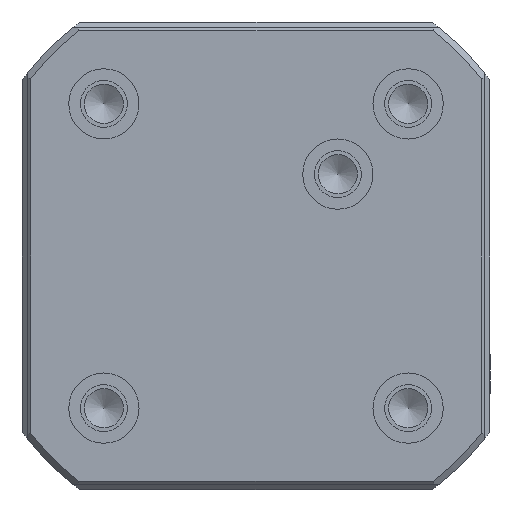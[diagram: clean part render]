
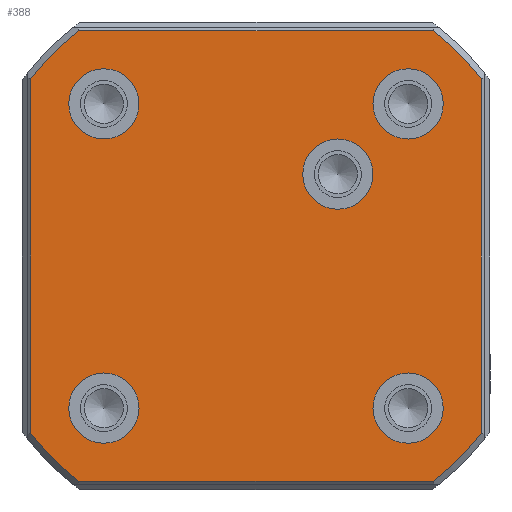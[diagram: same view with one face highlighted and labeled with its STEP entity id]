
A CAD part, front view. The second image highlights one B-rep face of the part: STEP entity #388.
In plain terms, the highlighted planar face has unit normal (0, -1, 0) as drawn and (0, 0, -1) by its records, which use the part's own axes.
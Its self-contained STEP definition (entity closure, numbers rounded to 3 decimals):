
#388=ADVANCED_FACE('',(#857,#858,#859,#860,#861,#862),#585,.T.);
#585=PLANE('',#2779);
#683=LINE('',#4112,#763);
#684=LINE('',#4116,#764);
#685=LINE('',#4120,#765);
#686=LINE('',#4124,#766);
#763=VECTOR('',#3226,1.);
#764=VECTOR('',#3229,1.);
#765=VECTOR('',#3232,1.);
#766=VECTOR('',#3235,1.);
#857=FACE_BOUND('',#1119,.T.);
#858=FACE_BOUND('',#1120,.T.);
#859=FACE_BOUND('',#1121,.T.);
#860=FACE_BOUND('',#1122,.T.);
#861=FACE_BOUND('',#1123,.T.);
#862=FACE_BOUND('',#1124,.T.);
#1119=EDGE_LOOP('',(#1449));
#1120=EDGE_LOOP('',(#1450));
#1121=EDGE_LOOP('',(#1451));
#1122=EDGE_LOOP('',(#1452,#1453,#1454,#1455,#1456,#1457,#1458,#1459));
#1123=EDGE_LOOP('',(#1460));
#1124=EDGE_LOOP('',(#1461));
#1449=ORIENTED_EDGE('',*,*,#2307,.F.);
#1450=ORIENTED_EDGE('',*,*,#2308,.F.);
#1451=ORIENTED_EDGE('',*,*,#2309,.F.);
#1452=ORIENTED_EDGE('',*,*,#2310,.T.);
#1453=ORIENTED_EDGE('',*,*,#2311,.T.);
#1454=ORIENTED_EDGE('',*,*,#2312,.T.);
#1455=ORIENTED_EDGE('',*,*,#2313,.T.);
#1456=ORIENTED_EDGE('',*,*,#2314,.T.);
#1457=ORIENTED_EDGE('',*,*,#2315,.T.);
#1458=ORIENTED_EDGE('',*,*,#2316,.T.);
#1459=ORIENTED_EDGE('',*,*,#2317,.T.);
#1460=ORIENTED_EDGE('',*,*,#2318,.F.);
#1461=ORIENTED_EDGE('',*,*,#2319,.F.);
#2064=VERTEX_POINT('',#4103);
#2065=VERTEX_POINT('',#4106);
#2066=VERTEX_POINT('',#4108);
#2067=VERTEX_POINT('',#4110);
#2068=VERTEX_POINT('',#4111);
#2069=VERTEX_POINT('',#4113);
#2070=VERTEX_POINT('',#4115);
#2071=VERTEX_POINT('',#4117);
#2072=VERTEX_POINT('',#4119);
#2073=VERTEX_POINT('',#4121);
#2074=VERTEX_POINT('',#4123);
#2075=VERTEX_POINT('',#4126);
#2076=VERTEX_POINT('',#4128);
#2307=EDGE_CURVE('',#2064,#2064,#2601,.T.);
#2308=EDGE_CURVE('',#2065,#2065,#2602,.T.);
#2309=EDGE_CURVE('',#2066,#2066,#2603,.T.);
#2310=EDGE_CURVE('',#2067,#2068,#2604,.T.);
#2311=EDGE_CURVE('',#2068,#2069,#683,.T.);
#2312=EDGE_CURVE('',#2069,#2070,#2605,.T.);
#2313=EDGE_CURVE('',#2070,#2071,#684,.T.);
#2314=EDGE_CURVE('',#2071,#2072,#2606,.T.);
#2315=EDGE_CURVE('',#2072,#2073,#685,.T.);
#2316=EDGE_CURVE('',#2073,#2074,#2607,.T.);
#2317=EDGE_CURVE('',#2074,#2067,#686,.T.);
#2318=EDGE_CURVE('',#2075,#2075,#2608,.T.);
#2319=EDGE_CURVE('',#2076,#2076,#2609,.T.);
#2601=CIRCLE('',#2769,6.);
#2602=CIRCLE('',#2771,6.);
#2603=CIRCLE('',#2772,6.);
#2604=CIRCLE('',#2773,49.);
#2605=CIRCLE('',#2774,49.);
#2606=CIRCLE('',#2775,49.);
#2607=CIRCLE('',#2776,49.);
#2608=CIRCLE('',#2777,6.);
#2609=CIRCLE('',#2778,6.);
#2769=AXIS2_PLACEMENT_3D('',#4102,#3216,#3217);
#2771=AXIS2_PLACEMENT_3D('',#4105,#3220,#3221);
#2772=AXIS2_PLACEMENT_3D('',#4107,#3222,#3223);
#2773=AXIS2_PLACEMENT_3D('',#4109,#3224,#3225);
#2774=AXIS2_PLACEMENT_3D('',#4114,#3227,#3228);
#2775=AXIS2_PLACEMENT_3D('',#4118,#3230,#3231);
#2776=AXIS2_PLACEMENT_3D('',#4122,#3233,#3234);
#2777=AXIS2_PLACEMENT_3D('',#4125,#3236,#3237);
#2778=AXIS2_PLACEMENT_3D('',#4127,#3238,#3239);
#2779=AXIS2_PLACEMENT_3D('',#4129,#3240,#3241);
#3216=DIRECTION('',(0.,0.,-1.));
#3217=DIRECTION('',(1.,0.,0.));
#3220=DIRECTION('',(0.,0.,-1.));
#3221=DIRECTION('',(-1.,0.,0.));
#3222=DIRECTION('',(0.,0.,-1.));
#3223=DIRECTION('',(1.,0.,0.));
#3224=DIRECTION('',(0.,0.,-1.));
#3225=DIRECTION('',(0.,1.,0.));
#3226=DIRECTION('',(1.,0.,0.));
#3227=DIRECTION('',(0.,0.,-1.));
#3228=DIRECTION('',(0.,1.,0.));
#3229=DIRECTION('',(0.,-1.,0.));
#3230=DIRECTION('',(0.,0.,-1.));
#3231=DIRECTION('',(0.,1.,0.));
#3232=DIRECTION('',(-1.,0.,0.));
#3233=DIRECTION('',(0.,0.,-1.));
#3234=DIRECTION('',(0.,1.,0.));
#3235=DIRECTION('',(0.,1.,0.));
#3236=DIRECTION('',(0.,0.,-1.));
#3237=DIRECTION('',(0.,1.,0.));
#3238=DIRECTION('',(0.,0.,-1.));
#3239=DIRECTION('',(0.,-1.,0.));
#3240=DIRECTION('',(0.,0.,-1.));
#3241=DIRECTION('',(0.,1.,0.));
#4102=CARTESIAN_POINT('',(14.,54.,0.));
#4103=CARTESIAN_POINT('',(20.,54.,0.));
#4105=CARTESIAN_POINT('',(-26.,66.,0.));
#4106=CARTESIAN_POINT('',(-32.,66.,0.));
#4107=CARTESIAN_POINT('',(26.,14.,0.));
#4108=CARTESIAN_POINT('',(32.,14.,0.));
#4109=CARTESIAN_POINT('',(0.,40.,0.));
#4110=CARTESIAN_POINT('',(-38.5,70.311,0.));
#4111=CARTESIAN_POINT('',(-30.311,78.5,0.));
#4112=CARTESIAN_POINT('',(65.5,78.5,0.));
#4113=CARTESIAN_POINT('',(30.311,78.5,0.));
#4114=CARTESIAN_POINT('',(0.,40.,0.));
#4115=CARTESIAN_POINT('',(38.5,70.311,0.));
#4116=CARTESIAN_POINT('',(38.5,77.379,0.));
#4117=CARTESIAN_POINT('',(38.5,9.689,0.));
#4118=CARTESIAN_POINT('',(0.,40.,0.));
#4119=CARTESIAN_POINT('',(30.311,1.5,0.));
#4120=CARTESIAN_POINT('',(65.5,1.5,0.));
#4121=CARTESIAN_POINT('',(-30.311,1.5,0.));
#4122=CARTESIAN_POINT('',(0.,40.,0.));
#4123=CARTESIAN_POINT('',(-38.5,9.689,0.));
#4124=CARTESIAN_POINT('',(-38.5,77.379,0.));
#4125=CARTESIAN_POINT('',(26.,66.,0.));
#4126=CARTESIAN_POINT('',(26.,72.,0.));
#4127=CARTESIAN_POINT('',(-26.,14.,0.));
#4128=CARTESIAN_POINT('',(-26.,8.,0.));
#4129=CARTESIAN_POINT('',(65.5,77.379,0.));
